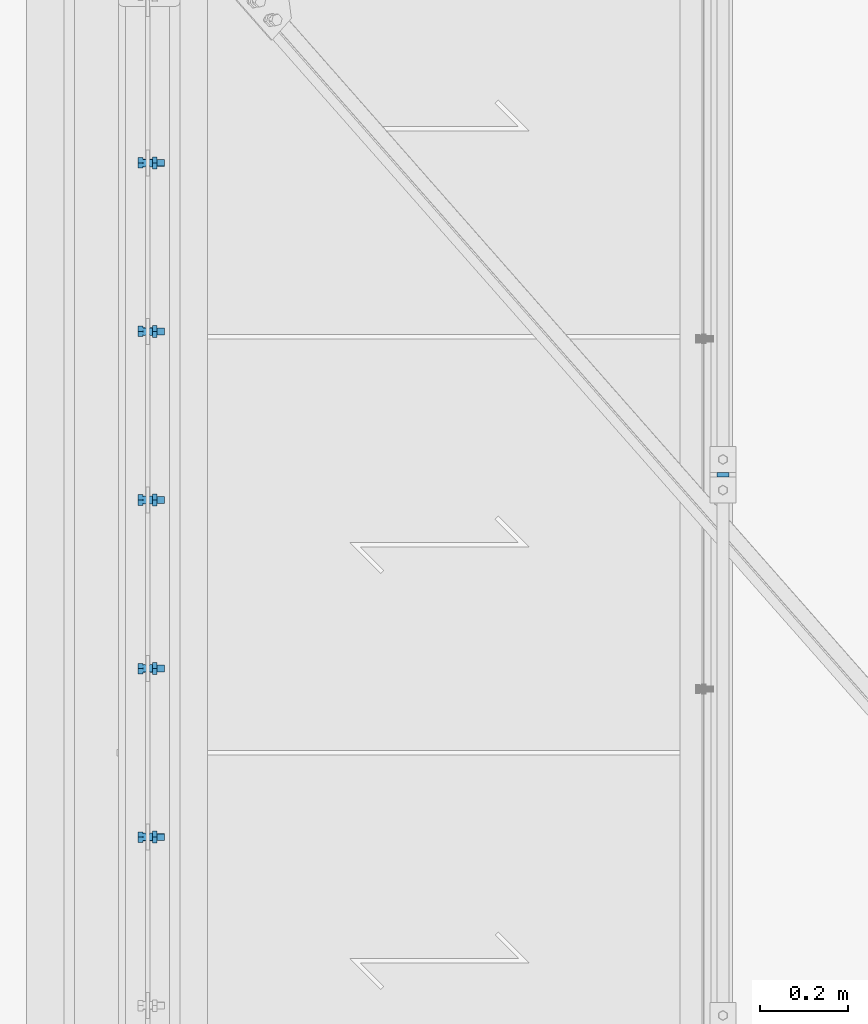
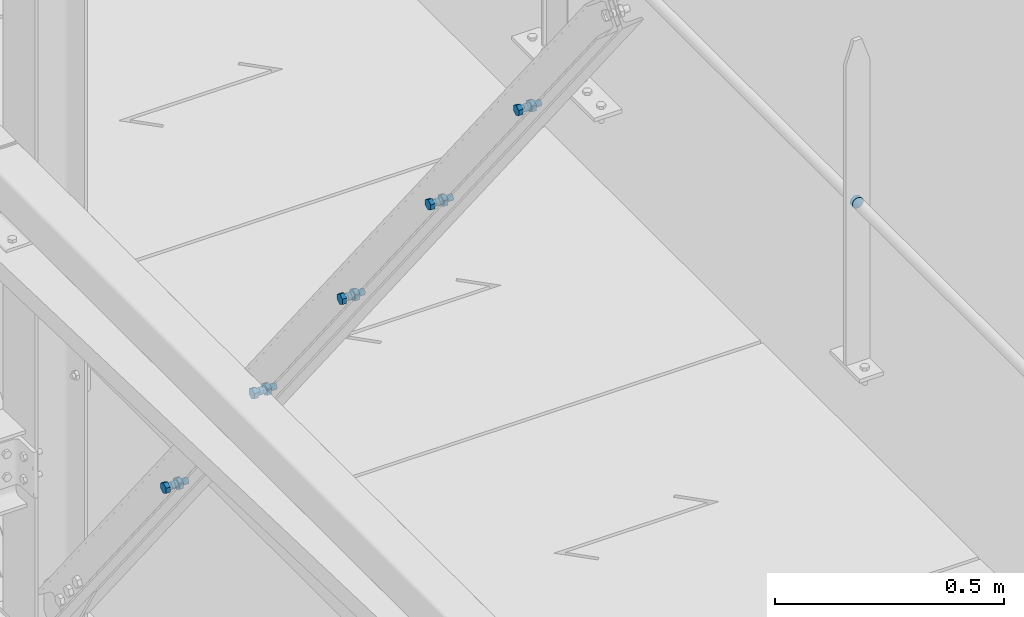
# One storey, part 229 of 362: 6 mechanical fasteners.
"""IFC2X3 building model written with IfcOpenShell, lengths in millimetres."""

from ifc_helpers import new_model, si_unit, frame, origin_with_axes, origin_2d_with_axis, place, context, subcontext, project, spatial, polyline, circle, outline, extrude, source, transform, mapped, material, type_object, element, save


model = new_model("IFC2X3")

# Units and contexts
model_context = context("Model", 3, precision=1e-05, world=origin_with_axes())
body_context = subcontext(model_context, "Body", "Model", "MODEL_VIEW")
ifc_project = project(units=[si_unit("LENGTHUNIT", "METRE", prefix="MILLI"), si_unit("AREAUNIT", "SQUARE_METRE"), si_unit("VOLUMEUNIT", "CUBIC_METRE"), si_unit("MASSUNIT", "GRAM", prefix="KILO"), si_unit("TIMEUNIT", "SECOND"), si_unit("PLANEANGLEUNIT", "RADIAN"), si_unit("SOLIDANGLEUNIT", "STERADIAN"), si_unit("THERMODYNAMICTEMPERATUREUNIT", "DEGREE_CELSIUS"), si_unit("LUMINOUSINTENSITYUNIT", "LUMEN")], contexts=[model_context])

# Site, building, storey
site_placement = place(None, origin_with_axes())
site = spatial("IfcSite", under=ifc_project, at=site_placement, Name="Undefined", CompositionType="ELEMENT")
building_placement = place(site_placement, origin_with_axes())
building = spatial("IfcBuilding", under=site, at=building_placement, Name="Undefined", CompositionType="ELEMENT")
storey_placement = place(building_placement, origin_with_axes())
storey = spatial("IfcBuildingStorey", under=building, at=storey_placement, Name="Undefined", CompositionType="ELEMENT", Elevation=0.0)

# Mechanical fasteners
ifc_material_1 = material(Name="8.8-SB-ZINGUE")
mechanical_fastener_type = type_object("IfcMechanicalFastenerType", Name="Bolt assembly")
shared_shape_1 = source(origin_with_axes(), body_context, "Body", "SweptSolid", [
    extrude(circle(Radius=9.0, at=origin_2d_with_axis()), frame((0.0, -10.9000000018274, 0.0), z_axis=(0.0, 1.0, 0.0), x_axis=(1.0, 0.0, 0.0)), (0.0, 0.0, 1.0), 6.0),
    extrude(circle(Radius=9.0, at=origin_2d_with_axis()), frame((0.0, 4.9000000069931, 0.0), z_axis=(0.0, 1.0, 0.0), x_axis=(1.0, 0.0, 0.0)), (0.0, 0.0, 1.0), 6.1),
    extrude(circle(Radius=9.0, at=origin_2d_with_axis()), frame((0.0, -3.99999923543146, 0.0), z_axis=(0.0, 1.0, 0.0), x_axis=(1.0, 0.0, 0.0)), (0.0, 0.0, 1.0), 8.0),
    extrude(outline(polyline([(13.85640646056, 0.0), (6.92820323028, 12.0000000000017), (-6.92820323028, 12.0000000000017), (-13.85640646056, 0.0), (-6.92820323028, -12.0000000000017), (6.92820323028, -12.0000000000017), (13.85640646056, 0.0)])), frame((0.0, -21.5600000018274, 0.0), z_axis=(0.0, 1.0, 0.0), x_axis=(1.0, 0.0, 0.0)), (0.0, 0.0, 1.0), 10.56),
    extrude(circle(Radius=8.0, at=origin_2d_with_axis()), frame((0.0, -11.0000000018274, 0.0), z_axis=(0.0, 1.0, 0.0), x_axis=(1.0, 0.0, 0.0)), (0.0, 0.0, 1.0), 50.0),
    extrude(outline(polyline([(15.3344231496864, 0.0), (7.6672115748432, 13.2800000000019), (-7.6672115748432, 13.2800000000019), (-15.3344231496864, 0.0), (-7.6672115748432, -13.2800000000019), (7.6672115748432, -13.2800000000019), (15.3344231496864, 0.0)])), frame((0.0, 11.0000000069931, 0.0), z_axis=(0.0, 1.0, 0.0), x_axis=(1.0, 0.0, 0.0)), (0.0, 0.0, 1.0), 10.56),
])
for number, where, z_axis, x_axis, name in (
    (1, (12680.0, 5507.54101485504, 9885.94767451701), (0.0, 1.0, 0.0), (0.0, 0.0, 1.0), "Bolt assembly"),
    (2, (12680.0, 5892.45898527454, 9401.05232558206), (0.0, 1.0, 0.0), (0.0, 0.0, 1.0), "Bolt assembly"),
    (3, (12680.0, 6277.37695569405, 8916.15697664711), (0.0, 1.0, 0.0), (0.0, 0.0, 1.0), "Bolt assembly"),
    (4, (12680.0, 6662.29492611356, 8431.26162771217), (0.0, 1.0, 0.0), (0.0, 0.0, 1.0), "Bolt assembly"),
    (5, (12680.0, 7047.21289653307, 7946.36627877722), (0.0, 1.0, 0.0), (0.0, 0.0, 1.0), "Bolt assembly"),
):
    element("IfcMechanicalFastener", number, at=place(storey_placement, frame(where, z_axis=z_axis, x_axis=x_axis)), inside=storey, type_object=mechanical_fastener_type, material=ifc_material_1, Name=name, NominalDiameter=16.0, NominalLength=50.0, context=body_context, shape_type="MappedRepresentation", body=[
        mapped(shared_shape_1, transform((0.0, 0.0, 0.0))),
    ])
ifc_material_2 = material(Name="6.8")
shared_shape_2 = source(origin_with_axes(), body_context, "Body", "SweptSolid", [
    extrude(circle(Radius=14.0, at=origin_2d_with_axis()), frame((0.0, -5.00000000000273, 0.0), z_axis=(0.0, 1.0, 0.0), x_axis=(1.0, 0.0, 0.0)), (0.0, 0.0, 1.0), 10.1),
])
mechanical_fastener_placement = place(storey_placement, frame((13993.9998873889, 6335.00344774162, 8673.80000293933), z_axis=(0.0, 0.0, 1.0), x_axis=(-1.0, 0.0, 0.0)))
element("IfcMechanicalFastener", 6, at=mechanical_fastener_placement, inside=storey, type_object=mechanical_fastener_type, material=ifc_material_2, Name="Bolt assembly", NominalDiameter=27.0, NominalLength=10.0, context=body_context, shape_type="MappedRepresentation", body=[
    mapped(shared_shape_2, transform((0.0, 0.0, 0.0))),
])

save(model, "model.ifc")
